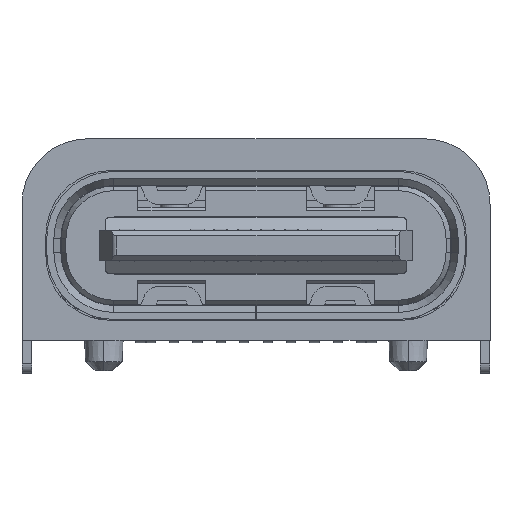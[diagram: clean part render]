
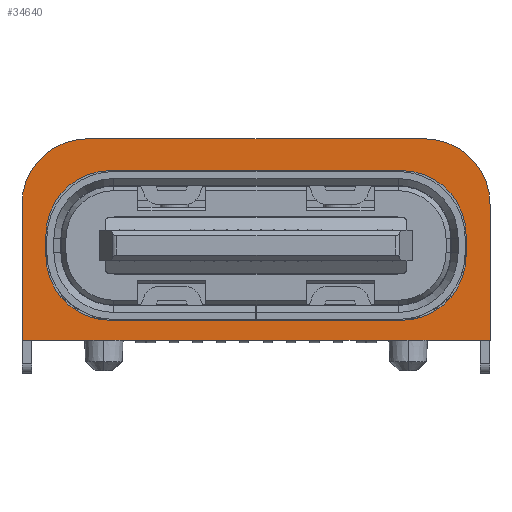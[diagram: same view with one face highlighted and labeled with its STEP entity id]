
A CAD part, front view. The second image highlights one B-rep face of the part: STEP entity #34640.
In plain terms, the highlighted planar face has unit normal (0, -1, 0).
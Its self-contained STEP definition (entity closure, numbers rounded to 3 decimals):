
#104 = DIRECTION ( 'NONE',  ( 1., 0., 0. ) ) ;
#781 = VERTEX_POINT ( 'NONE', #14244 ) ;
#1596 = EDGE_CURVE ( 'NONE', #22065, #10900, #28341, .T. ) ;
#1733 = DIRECTION ( 'NONE',  ( 0., 0., -1. ) ) ;
#1962 = CARTESIAN_POINT ( 'NONE',  ( -5., 1.8, 3.46 ) ) ;
#1982 = EDGE_CURVE ( 'NONE', #25363, #18602, #2808, .T. ) ;
#2808 = LINE ( 'NONE', #27830, #33985 ) ;
#3319 = CARTESIAN_POINT ( 'NONE',  ( 5., 1.8, 0.55 ) ) ;
#3420 = ORIENTED_EDGE ( 'NONE', *, *, #18374, .F. ) ;
#3838 = FACE_BOUND ( 'NONE', #19064, .T. ) ;
#3886 = CARTESIAN_POINT ( 'NONE',  ( 4.49, 1.8, 2.8 ) ) ;
#3921 = VECTOR ( 'NONE', #31362, 1000. ) ;
#4226 = DIRECTION ( 'NONE',  ( -1., 0., 0. ) ) ;
#4310 = VERTEX_POINT ( 'NONE', #14143 ) ;
#5433 = VERTEX_POINT ( 'NONE', #26623 ) ;
#5748 = VERTEX_POINT ( 'NONE', #18423 ) ;
#5885 = EDGE_CURVE ( 'NONE', #781, #21987, #25233, .T. ) ;
#5977 = DIRECTION ( 'NONE',  ( 0., 0., -1. ) ) ;
#6025 = VERTEX_POINT ( 'NONE', #1962 ) ;
#6333 = CARTESIAN_POINT ( 'NONE',  ( -4.49, 1.8, 2.8 ) ) ;
#6437 = VERTEX_POINT ( 'NONE', #26765 ) ;
#6725 = ORIENTED_EDGE ( 'NONE', *, *, #22825, .T. ) ;
#7157 = ORIENTED_EDGE ( 'NONE', *, *, #1982, .F. ) ;
#7190 = CARTESIAN_POINT ( 'NONE',  ( 3.11, 1.8, 2.36 ) ) ;
#7721 = EDGE_LOOP ( 'NONE', ( #27201, #14790, #7157, #34742, #6725, #3420 ) ) ;
#8006 = CARTESIAN_POINT ( 'NONE',  ( 5., 1.8, 0.55 ) ) ;
#8748 = VERTEX_POINT ( 'NONE', #33541 ) ;
#10042 = CARTESIAN_POINT ( 'NONE',  ( -3.11, 1.8, 2.8 ) ) ;
#10317 = DIRECTION ( 'NONE',  ( 1., 0., 0. ) ) ;
#10413 = LINE ( 'NONE', #34570, #11675 ) ;
#10900 = VERTEX_POINT ( 'NONE', #3886 ) ;
#11632 = CIRCLE ( 'NONE', #24554, 1.38 ) ;
#11675 = VECTOR ( 'NONE', #18332, 1000. ) ;
#12062 = DIRECTION ( 'NONE',  ( -1., 0., 0. ) ) ;
#12226 = EDGE_CURVE ( 'NONE', #22065, #4310, #15704, .T. ) ;
#12416 = AXIS2_PLACEMENT_3D ( 'NONE', #10042, #17618, #4226 ) ;
#12787 = EDGE_CURVE ( 'NONE', #5433, #21987, #20234, .T. ) ;
#12867 = EDGE_CURVE ( 'NONE', #781, #5748, #11632, .T. ) ;
#13212 = ORIENTED_EDGE ( 'NONE', *, *, #14336, .F. ) ;
#13237 = CARTESIAN_POINT ( 'NONE',  ( 3.11, 1.8, 4.18 ) ) ;
#14078 = CARTESIAN_POINT ( 'NONE',  ( 3.11, 1.8, 4.18 ) ) ;
#14092 = EDGE_CURVE ( 'NONE', #33859, #33922, #10413, .T. ) ;
#14143 = CARTESIAN_POINT ( 'NONE',  ( -3.11, 1.8, 4.18 ) ) ;
#14244 = CARTESIAN_POINT ( 'NONE',  ( -3.11, 1.8, 0.98 ) ) ;
#14336 = EDGE_CURVE ( 'NONE', #6437, #5748, #28187, .T. ) ;
#14647 = CARTESIAN_POINT ( 'NONE',  ( -5., 1.8, 3.46 ) ) ;
#14790 = ORIENTED_EDGE ( 'NONE', *, *, #23606, .F. ) ;
#14792 = DIRECTION ( 'NONE',  ( 1., 0., 0. ) ) ;
#15162 = VECTOR ( 'NONE', #12062, 1000. ) ;
#15704 = LINE ( 'NONE', #13237, #15162 ) ;
#16027 = CARTESIAN_POINT ( 'NONE',  ( 3.11, 1.8, 0.98 ) ) ;
#16851 = AXIS2_PLACEMENT_3D ( 'NONE', #7190, #30811, #22713 ) ;
#16929 = LINE ( 'NONE', #14647, #25385 ) ;
#17008 = EDGE_CURVE ( 'NONE', #6437, #4310, #20841, .T. ) ;
#17086 = ORIENTED_EDGE ( 'NONE', *, *, #12226, .F. ) ;
#17229 = PLANE ( 'NONE',  #31719 ) ;
#17618 = DIRECTION ( 'NONE',  ( 0., 1., 0. ) ) ;
#17826 = CARTESIAN_POINT ( 'NONE',  ( -3.6, 1.8, 3.46 ) ) ;
#18004 = DIRECTION ( 'NONE',  ( 0., 1., 0. ) ) ;
#18033 = ORIENTED_EDGE ( 'NONE', *, *, #5885, .F. ) ;
#18051 = CARTESIAN_POINT ( 'NONE',  ( 5., 1.8, 3.46 ) ) ;
#18105 = EDGE_CURVE ( 'NONE', #5433, #10900, #23433, .T. ) ;
#18332 = DIRECTION ( 'NONE',  ( 0., 0., -1. ) ) ;
#18374 = EDGE_CURVE ( 'NONE', #33922, #8748, #22530, .T. ) ;
#18423 = CARTESIAN_POINT ( 'NONE',  ( -4.49, 1.8, 2.36 ) ) ;
#18602 = VERTEX_POINT ( 'NONE', #23753 ) ;
#19064 = EDGE_LOOP ( 'NONE', ( #22619, #32057, #31610, #18033, #27533, #13212, #34360, #17086 ) ) ;
#19524 = DIRECTION ( 'NONE',  ( -1., 0., 0. ) ) ;
#20234 = CIRCLE ( 'NONE', #16851, 1.38 ) ;
#20266 = CIRCLE ( 'NONE', #27038, 1.4 ) ;
#20841 = CIRCLE ( 'NONE', #12416, 1.38 ) ;
#20881 = CIRCLE ( 'NONE', #25944, 1.4 ) ;
#21047 = DIRECTION ( 'NONE',  ( 0., 1., 0. ) ) ;
#21987 = VERTEX_POINT ( 'NONE', #16027 ) ;
#22065 = VERTEX_POINT ( 'NONE', #14078 ) ;
#22530 = LINE ( 'NONE', #3319, #24754 ) ;
#22619 = ORIENTED_EDGE ( 'NONE', *, *, #1596, .T. ) ;
#22713 = DIRECTION ( 'NONE',  ( 1., 0., 0. ) ) ;
#22749 = DIRECTION ( 'NONE',  ( 0., 0., -1. ) ) ;
#22825 = EDGE_CURVE ( 'NONE', #6025, #8748, #16929, .T. ) ;
#23433 = LINE ( 'NONE', #34194, #3921 ) ;
#23606 = EDGE_CURVE ( 'NONE', #18602, #33859, #20266, .T. ) ;
#23753 = CARTESIAN_POINT ( 'NONE',  ( 3.6, 1.8, 4.86 ) ) ;
#24554 = AXIS2_PLACEMENT_3D ( 'NONE', #28510, #25878, #1733 ) ;
#24754 = VECTOR ( 'NONE', #19524, 1000. ) ;
#24841 = VECTOR ( 'NONE', #104, 1000. ) ;
#25233 = LINE ( 'NONE', #32999, #24841 ) ;
#25363 = VERTEX_POINT ( 'NONE', #28751 ) ;
#25385 = VECTOR ( 'NONE', #22749, 1000. ) ;
#25766 = VECTOR ( 'NONE', #5977, 1000. ) ;
#25878 = DIRECTION ( 'NONE',  ( 0., 1., 0. ) ) ;
#25944 = AXIS2_PLACEMENT_3D ( 'NONE', #17826, #28257, #28419 ) ;
#26623 = CARTESIAN_POINT ( 'NONE',  ( 4.49, 1.8, 2.36 ) ) ;
#26765 = CARTESIAN_POINT ( 'NONE',  ( -4.49, 1.8, 2.8 ) ) ;
#27038 = AXIS2_PLACEMENT_3D ( 'NONE', #34456, #21047, #31798 ) ;
#27201 = ORIENTED_EDGE ( 'NONE', *, *, #14092, .F. ) ;
#27533 = ORIENTED_EDGE ( 'NONE', *, *, #12867, .T. ) ;
#27830 = CARTESIAN_POINT ( 'NONE',  ( -3.6, 1.8, 4.86 ) ) ;
#28187 = LINE ( 'NONE', #6333, #25766 ) ;
#28257 = DIRECTION ( 'NONE',  ( 0., 1., 0. ) ) ;
#28341 = CIRCLE ( 'NONE', #31154, 1.38 ) ;
#28343 = FACE_OUTER_BOUND ( 'NONE', #7721, .T. ) ;
#28414 = DIRECTION ( 'NONE',  ( 0., 0., 1. ) ) ;
#28419 = DIRECTION ( 'NONE',  ( -1., 0., 0. ) ) ;
#28510 = CARTESIAN_POINT ( 'NONE',  ( -3.11, 1.8, 2.36 ) ) ;
#28751 = CARTESIAN_POINT ( 'NONE',  ( -3.6, 1.8, 4.86 ) ) ;
#29847 = EDGE_CURVE ( 'NONE', #6025, #25363, #20881, .T. ) ;
#30805 = DIRECTION ( 'NONE',  ( 0., 1., 0. ) ) ;
#30811 = DIRECTION ( 'NONE',  ( 0., 1., 0. ) ) ;
#31154 = AXIS2_PLACEMENT_3D ( 'NONE', #33010, #18004, #28414 ) ;
#31362 = DIRECTION ( 'NONE',  ( 0., 0., 1. ) ) ;
#31610 = ORIENTED_EDGE ( 'NONE', *, *, #12787, .T. ) ;
#31719 = AXIS2_PLACEMENT_3D ( 'NONE', #34472, #30805, #10317 ) ;
#31798 = DIRECTION ( 'NONE',  ( 0., 0., 1. ) ) ;
#32057 = ORIENTED_EDGE ( 'NONE', *, *, #18105, .F. ) ;
#32999 = CARTESIAN_POINT ( 'NONE',  ( -3.11, 1.8, 0.98 ) ) ;
#33010 = CARTESIAN_POINT ( 'NONE',  ( 3.11, 1.8, 2.8 ) ) ;
#33541 = CARTESIAN_POINT ( 'NONE',  ( -5., 1.8, 0.55 ) ) ;
#33859 = VERTEX_POINT ( 'NONE', #18051 ) ;
#33922 = VERTEX_POINT ( 'NONE', #8006 ) ;
#33985 = VECTOR ( 'NONE', #14792, 1000. ) ;
#34194 = CARTESIAN_POINT ( 'NONE',  ( 4.49, 1.8, 2.36 ) ) ;
#34360 = ORIENTED_EDGE ( 'NONE', *, *, #17008, .T. ) ;
#34456 = CARTESIAN_POINT ( 'NONE',  ( 3.6, 1.8, 3.46 ) ) ;
#34472 = CARTESIAN_POINT ( 'NONE',  ( 6.272, 1.8, 4.86 ) ) ;
#34570 = CARTESIAN_POINT ( 'NONE',  ( 5., 1.8, 3.46 ) ) ;
#34640 = ADVANCED_FACE ( 'NONE', ( #28343, #3838 ), #17229, .F. ) ;
#34742 = ORIENTED_EDGE ( 'NONE', *, *, #29847, .F. ) ;
